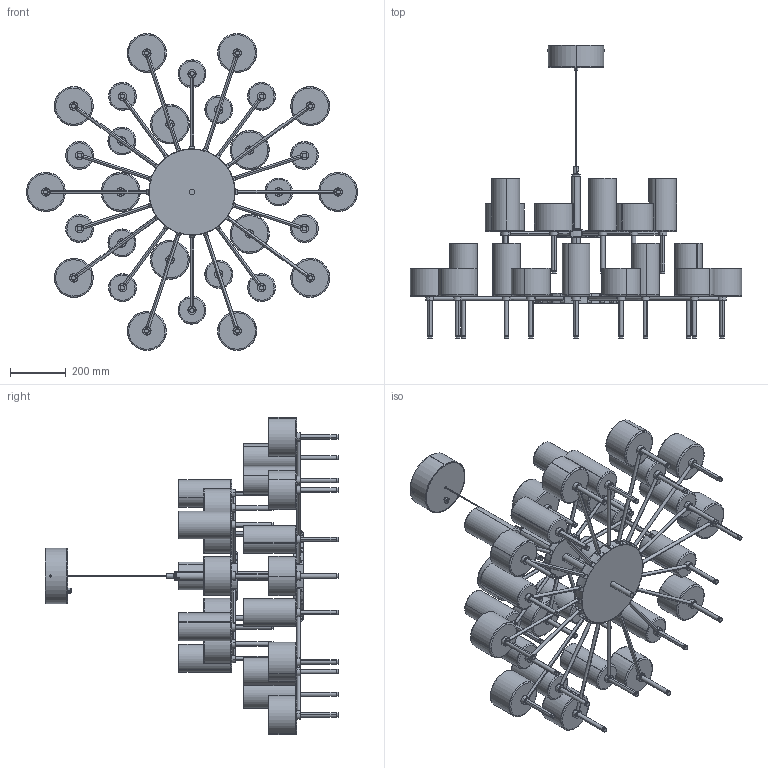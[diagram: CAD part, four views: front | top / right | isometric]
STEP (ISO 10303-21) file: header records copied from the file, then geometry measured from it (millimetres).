
FILE_DESCRIPTION (( 'STEP AP203' ), '1' );
FILE_NAME ('SPSPIL30XXXX12V-3D.STEP', '2015-02-16T11:07:28', ( '' ), ( '' ), 'SwSTEP 2.0', 'SolidWorks 2014', '' );
FILE_SCHEMA (( 'CONFIG_CONTROL_DESIGN' ));
Products named in the file (1): SPSPIL30XXXX12V-3D
Bounding box: 1187.56 x 1051.38 x 1136.35 mm (x, y, z)
Surface area: 4474015.9 mm2 (no closed solid volume)
Topology: 0 solids, 214 shells, 1209 faces, 3155 edges, 2129 vertices
Faces by surface type: cylinder 448, torus 426, plane 258, bspline 49, cone 28
Entity records: 48981 total; most frequent: CARTESIAN_POINT 18643, DIRECTION 7162, ORIENTED_EDGE 5179, AXIS2_PLACEMENT_3D 3237, EDGE_CURVE 3155, VERTEX_POINT 2129, CIRCLE 2076, EDGE_LOOP 1486
